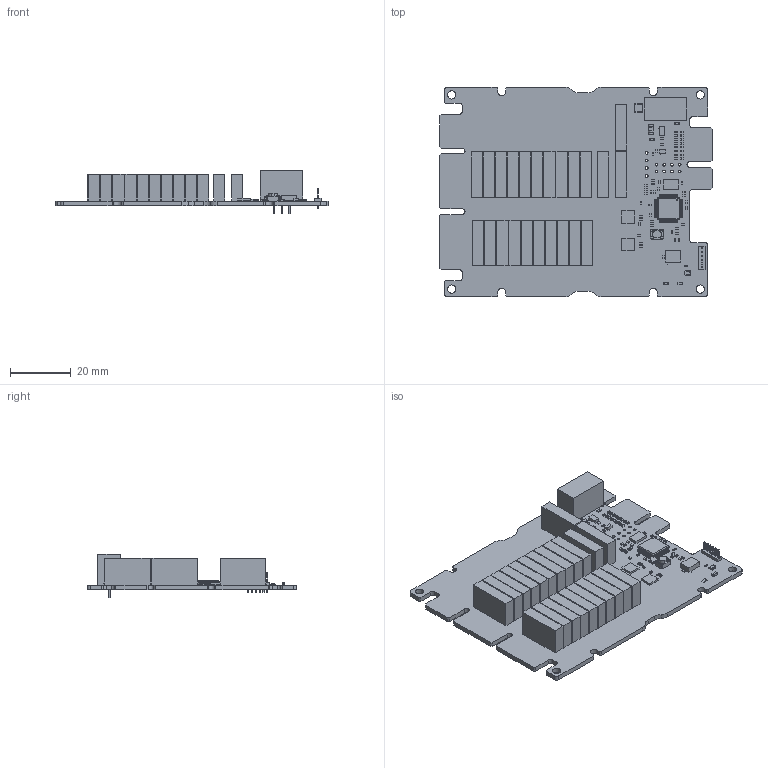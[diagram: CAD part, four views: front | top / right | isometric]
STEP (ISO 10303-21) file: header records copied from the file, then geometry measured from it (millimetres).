
FILE_DESCRIPTION(('Open CASCADE Model'),'2;1');
FILE_NAME('Open CASCADE Shape Model','2026-08-19T14:17:21',('Author'),( 'Open CASCADE'),'Open CASCADE STEP processor 7.5','Open CASCADE 7.5' ,'Unknown');
FILE_SCHEMA(('AUTOMOTIVE_DESIGN { 1 0 10303 214 1 1 1 1 }'));
Length unit declared in the file: millimetre
Products named in the file (231): Open CASCADE STEP translator 7.5 2192; Open CASCADE STEP translator 7.5 2193; Open CASCADE STEP translator 7.5 2194; Open CASCADE STEP translator 7.5 2195; Open CASCADE STEP translator 7.5 2196; Open CASCADE STEP translator 7.5 2197; Open CASCADE STEP translator 7.5 2198; Open CASCADE STEP translator 7.5 2199; Open CASCADE STEP translator 7.5 2200; Open CASCADE STEP translator 7.5 2201; Open CASCADE STEP translator 7.5 2202; Open CASCADE STEP translator 7.5 2203; Open CASCADE STEP translator 7.5 2204; Open CASCADE STEP translator 7.5 2205; Open CASCADE STEP translator 7.5 2206; Open CASCADE STEP translator 7.5 2207; Open CASCADE STEP translator 7.5 2208; Open CASCADE STEP translator 7.5 2209; Open CASCADE STEP translator 7.5 2210; Open CASCADE STEP translator 7.5 2211; Open CASCADE STEP translator 7.5 2212; Open CASCADE STEP translator 7.5 2213; Open CASCADE STEP translator 7.5 2214; Open CASCADE STEP translator 7.5 2215; Open CASCADE STEP translator 7.5 2216; Open CASCADE STEP translator 7.5 2217; Open CASCADE STEP translator 7.5 2218; Open CASCADE STEP translator 7.5 2219; Open CASCADE STEP translator 7.5 2220; Open CASCADE STEP translator 7.5 2221; Open CASCADE STEP translator 7.5 2222; Open CASCADE STEP translator 7.5 2223; Open CASCADE STEP translator 7.5 2224; Open CASCADE STEP translator 7.5 2225; Open CASCADE STEP translator 7.5 2226; Open CASCADE STEP translator 7.5 2227; Open CASCADE STEP translator 7.5 2228; Open CASCADE STEP translator 7.5 2229; Open CASCADE STEP translator 7.5 2230; Open CASCADE STEP translator 7.5 2231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
Bounding box: 90 x 69 x 14.2 mm (x, y, z)
Volume: 21778.6 mm3; surface area: 24678.9 mm2
Topology: 298 solids, 298 shells, 2998 faces, 7031 edges, 4642 vertices
Faces by surface type: plane 2466, cylinder 492, sphere 24, torus 8, bspline 4, cone 4
Full cylindrical faces by diameter (mm): 0.08 x1, 0.289 x1, 0.3 x6, 0.5 x3, 0.6 x6, 0.9 x150, 0.94 x3, 1.4 x1, 1.6 x2, 2.7 x4
Entity records: 94543 total; most frequent: CARTESIAN_POINT 14755, ORIENTED_EDGE 14062, DIRECTION 13998, EDGE_CURVE 7031, LINE 6024, VECTOR 6024, VERTEX_POINT 4642, AXIS2_PLACEMENT_3D 3987
